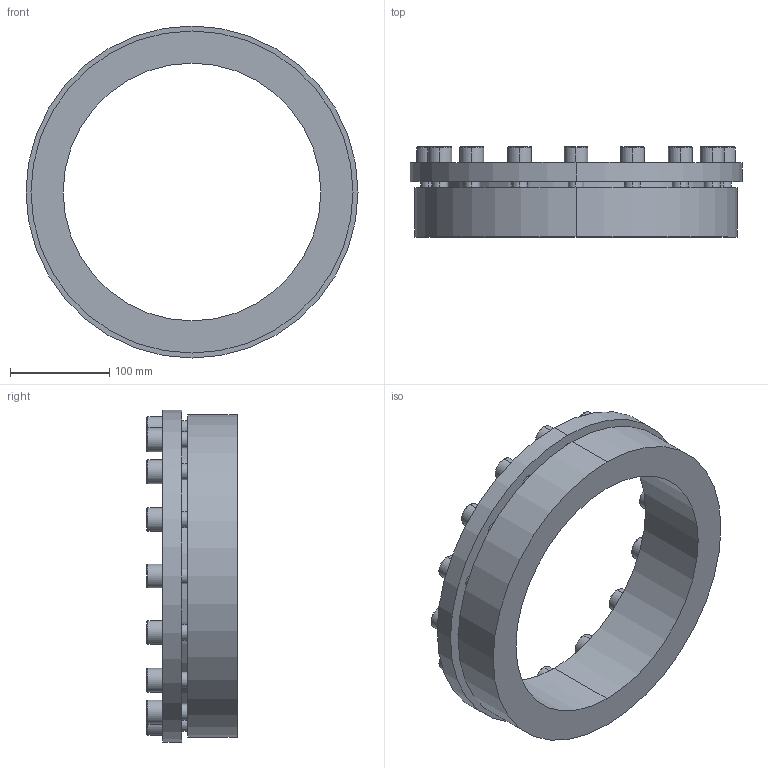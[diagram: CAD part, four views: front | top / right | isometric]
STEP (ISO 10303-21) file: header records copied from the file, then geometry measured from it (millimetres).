
FILE_DESCRIPTION (( 'STEP AP203' ), '1' );
FILE_NAME ('PL-H6 260-325.STEP', '2021-10-23T01:40:30', ( '' ), ( '' ), 'SwSTEP 2.0', 'SolidWorks 2018', '' );
FILE_SCHEMA (( 'CONFIG_CONTROL_DESIGN' ));
Length unit declared in the file: millimetre
Products named in the file (1): PL-H6 260-325
Bounding box: 335 x 91 x 335 mm (x, y, z)
Volume: 2304942.6 mm3; surface area: 279772.6 mm2
Topology: 1 solids, 1 shells, 236 faces, 568 edges, 368 vertices
Faces by surface type: plane 132, cylinder 72, torus 32
Entity records: 7029 total; most frequent: DIRECTION 1250, CARTESIAN_POINT 1173, ORIENTED_EDGE 1136, EDGE_CURVE 568, AXIS2_PLACEMENT_3D 445, VERTEX_POINT 368, LINE 360, VECTOR 360
